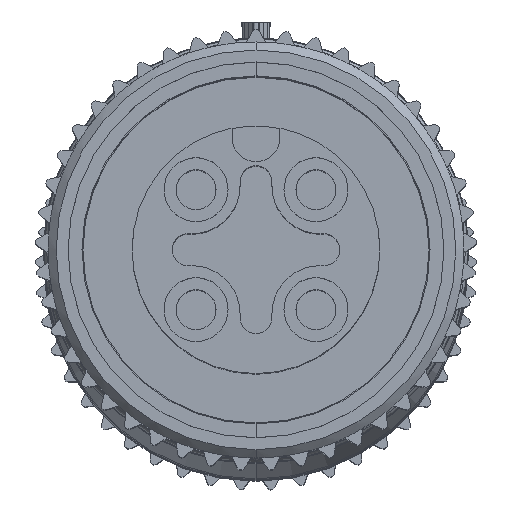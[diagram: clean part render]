
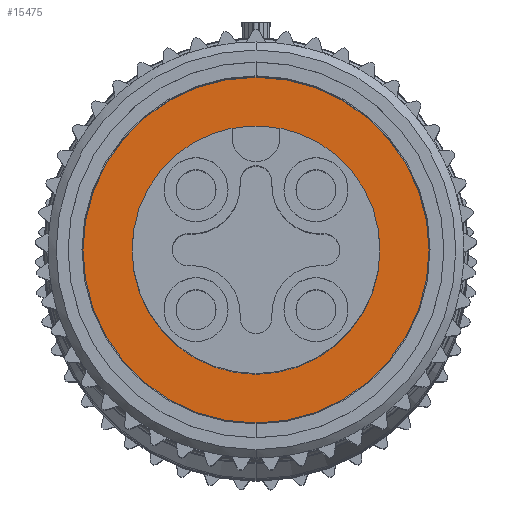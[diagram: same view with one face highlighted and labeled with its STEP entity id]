
A CAD part, top view. The second image highlights one B-rep face of the part: STEP entity #15475.
In plain terms, the highlighted planar face has unit normal (0, 0, 1).
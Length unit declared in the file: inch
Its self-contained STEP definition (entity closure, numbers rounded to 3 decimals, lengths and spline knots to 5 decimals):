
#24=CARTESIAN_POINT('',(0.,0.,-0.5));
#25=DIRECTION('',(0.,0.,-1.));
#26=DIRECTION('',(0.,-1.,0.));
#27=AXIS2_PLACEMENT_3D('',#24,#25,#26);
#29=CARTESIAN_POINT('',(0.,0.,-0.5));
#30=DIRECTION('',(0.,0.,-1.));
#31=DIRECTION('',(0.,1.,0.));
#32=AXIS2_PLACEMENT_3D('',#29,#30,#31);
#34=CARTESIAN_POINT('',(0.,0.,-0.5));
#35=DIRECTION('',(0.,0.,1.));
#36=DIRECTION('',(0.,-1.,0.));
#37=AXIS2_PLACEMENT_3D('',#34,#35,#36);
#39=CARTESIAN_POINT('',(0.,0.,-0.5));
#40=DIRECTION('',(0.,0.,1.));
#41=DIRECTION('',(0.,1.,0.));
#42=AXIS2_PLACEMENT_3D('',#39,#40,#41);
#12417=CARTESIAN_POINT('',(0.,0.155,-0.5));
#12418=CARTESIAN_POINT('',(0.,-0.155,-0.5));
#12419=VERTEX_POINT('',#12417);
#12420=VERTEX_POINT('',#12418);
#12431=CARTESIAN_POINT('',(0.,-0.2165,-0.5));
#12432=CARTESIAN_POINT('',(0.,0.2165,-0.5));
#12433=VERTEX_POINT('',#12431);
#12434=VERTEX_POINT('',#12432);
#15460=CARTESIAN_POINT('',(0.,0.,-0.5));
#15461=DIRECTION('',(0.,0.,1.));
#15462=DIRECTION('',(0.,1.,0.));
#15463=AXIS2_PLACEMENT_3D('',#15460,#15461,#15462);
#15464=PLANE('',#15463);
#15466=ORIENTED_EDGE('',*,*,#15465,.T.);
#15468=ORIENTED_EDGE('',*,*,#15467,.T.);
#15469=EDGE_LOOP('',(#15466,#15468));
#15470=FACE_OUTER_BOUND('',#15469,.F.);
#15471=ORIENTED_EDGE('',*,*,#15450,.T.);
#15472=ORIENTED_EDGE('',*,*,#15419,.T.);
#15473=EDGE_LOOP('',(#15471,#15472));
#15474=FACE_BOUND('',#15473,.F.);
#15475=ADVANCED_FACE('',(#15470,#15474),#15464,.T.);
#28=CIRCLE('',#27,0.2165);
#33=CIRCLE('',#32,0.2165);
#38=CIRCLE('',#37,0.155);
#43=CIRCLE('',#42,0.155);
#15419=EDGE_CURVE('',#12419,#12420,#43,.T.);
#15450=EDGE_CURVE('',#12420,#12419,#38,.T.);
#15465=EDGE_CURVE('',#12433,#12434,#28,.T.);
#15467=EDGE_CURVE('',#12434,#12433,#33,.T.);
